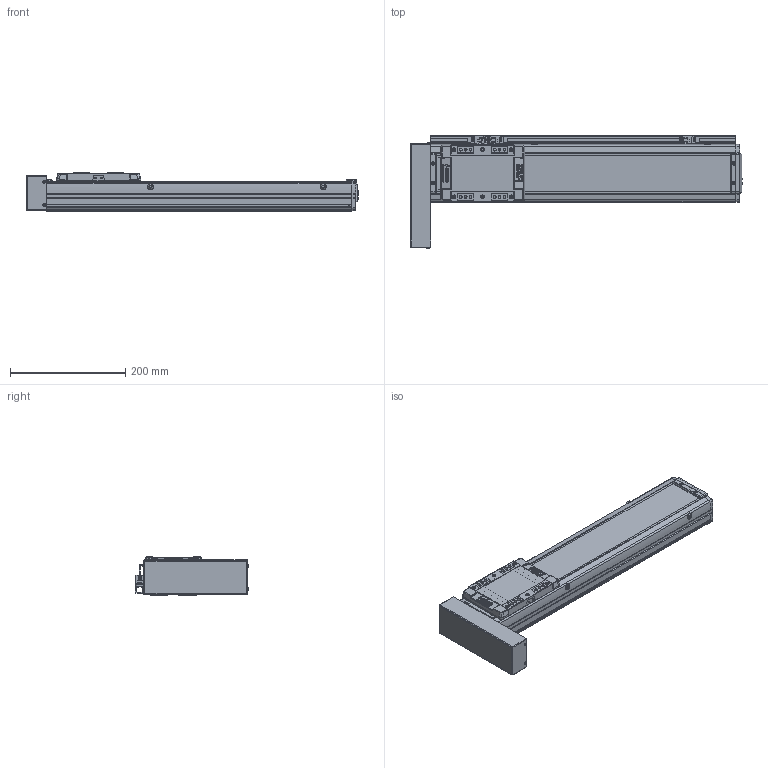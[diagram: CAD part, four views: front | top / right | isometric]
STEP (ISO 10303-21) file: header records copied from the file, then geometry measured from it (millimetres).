
FILE_DESCRIPTION(('STEP AP214'),'1');
FILE_NAME('Z:/Web/3D/SAN100/SAN100 양산용 (STEP)/SAN100ㅁㅁ-350PR+3SL.stp','2013-05-08T06:32:57',(' '),(' '),'Spatial InterOp 3D',' ',' ');
FILE_SCHEMA(('automotive_design'));
Length unit declared in the file: millimetre
Products named in the file (49): SUS COVER; SFX-SAN100; RRCV-SAN100; 스크루 : Round - M4.0 x 10.0; M3.0 x 6.0; 스크루 : Round - M3.0 x 6.0; FRBL-SAN100; SLBL-SAN100; SLCV-SAN100; 스크루 : Countersunk - M3.0 x 6.0; BASE; 스크루 : Round - M5.0 x 6.0; BTCV-SAN65; BHCS M3 X 6L; SGD-SAN100; SRL-16x17-380L; EE-SX674; SBK-SX674-352
Bounding box: 576.5 x 197.06 x 66 mm (x, y, z)
Volume: 1970588.2 mm3; surface area: 507017.9 mm2
Topology: 49 solids, 50 shells, 2349 faces, 6116 edges, 3963 vertices
Faces by surface type: plane 1280, cylinder 785, cone 186, sphere 64, torus 18, bspline 16
Entity records: 92560 total; most frequent: CARTESIAN_POINT 13755, DIRECTION 12863, ORIENTED_EDGE 12068, EDGE_CURVE 6034, AXIS2_PLACEMENT_3D 4532, VERTEX_POINT 3963, LINE 3799, VECTOR 3799
